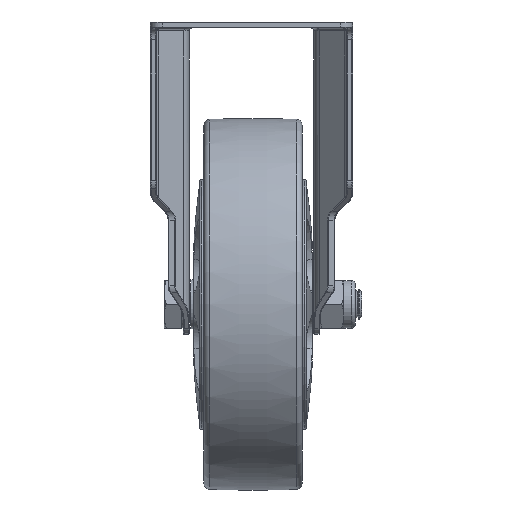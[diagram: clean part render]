
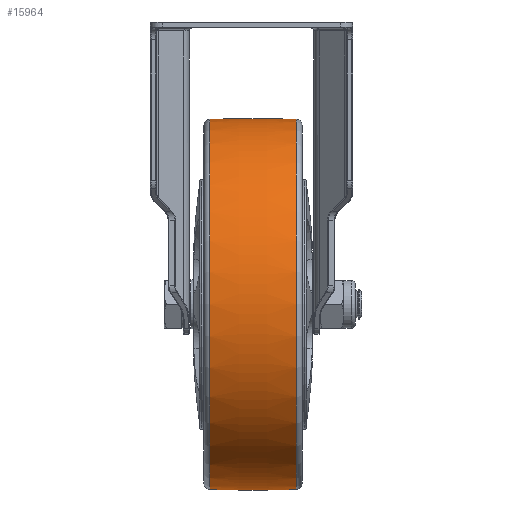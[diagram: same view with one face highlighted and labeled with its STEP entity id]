
A CAD part, left-side view. The second image highlights one B-rep face of the part: STEP entity #15964.
In plain terms, the highlighted toroidal (fillet/blend) face has major radius 391.4 mm and minor radius 453.9 mm.
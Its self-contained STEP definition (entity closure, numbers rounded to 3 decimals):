
#1253 = DIRECTION ( 'NONE',  ( -1., 0., 0. ) ) ;
#1724 = CARTESIAN_POINT ( 'NONE',  ( 0., -14.564, 62.266 ) ) ;
#2067 = CIRCLE ( 'NONE', #10735, 453.9 ) ;
#2447 = DIRECTION ( 'NONE',  ( 0., 0., -1. ) ) ;
#3099 = AXIS2_PLACEMENT_3D ( 'NONE', #16030, #9471, #2447 ) ;
#3715 = CARTESIAN_POINT ( 'NONE',  ( 0., 14.564, -62.266 ) ) ;
#5203 = AXIS2_PLACEMENT_3D ( 'NONE', #22360, #24716, #17956 ) ;
#5534 = EDGE_CURVE ( 'NONE', #19384, #15623, #10327, .T. ) ;
#6211 = VERTEX_POINT ( 'NONE', #21484 ) ;
#6489 = FACE_OUTER_BOUND ( 'NONE', #20455, .T. ) ;
#9471 = DIRECTION ( 'NONE',  ( 0., -1., 0. ) ) ;
#9512 = CIRCLE ( 'NONE', #10574, 62.266 ) ;
#9732 = ORIENTED_EDGE ( 'NONE', *, *, #12951, .F. ) ;
#10094 = ORIENTED_EDGE ( 'NONE', *, *, #5534, .F. ) ;
#10123 = DIRECTION ( 'NONE',  ( 0., 0., 1. ) ) ;
#10200 = DIRECTION ( 'NONE',  ( 0., 0., 1. ) ) ;
#10327 = CIRCLE ( 'NONE', #5203, 453.9 ) ;
#10574 = AXIS2_PLACEMENT_3D ( 'NONE', #11153, #24930, #15552 ) ;
#10735 = AXIS2_PLACEMENT_3D ( 'NONE', #19496, #1253, #10200 ) ;
#11153 = CARTESIAN_POINT ( 'NONE',  ( 0., 14.564, 0. ) ) ;
#12951 = EDGE_CURVE ( 'NONE', #15623, #6211, #21259, .T. ) ;
#15079 = ORIENTED_EDGE ( 'NONE', *, *, #25885, .T. ) ;
#15552 = DIRECTION ( 'NONE',  ( 0., 0., -1. ) ) ;
#15623 = VERTEX_POINT ( 'NONE', #1724 ) ;
#15964 = ADVANCED_FACE ( 'NONE', ( #6489 ), #23253, .T. ) ;
#16030 = CARTESIAN_POINT ( 'NONE',  ( 0., -14.564, 0. ) ) ;
#17216 = VERTEX_POINT ( 'NONE', #3715 ) ;
#17956 = DIRECTION ( 'NONE',  ( 0., 0., -1. ) ) ;
#19085 = CARTESIAN_POINT ( 'NONE',  ( 0., 14.564, 62.266 ) ) ;
#19384 = VERTEX_POINT ( 'NONE', #19085 ) ;
#19418 = DIRECTION ( 'NONE',  ( 0., -1., 0. ) ) ;
#19496 = CARTESIAN_POINT ( 'NONE',  ( 0., 0., 391.4 ) ) ;
#20455 = EDGE_LOOP ( 'NONE', ( #10094, #22859, #15079, #9732 ) ) ;
#20993 = CARTESIAN_POINT ( 'NONE',  ( 0., 0., 0. ) ) ;
#21259 = CIRCLE ( 'NONE', #3099, 62.266 ) ;
#21484 = CARTESIAN_POINT ( 'NONE',  ( 0., -14.564, -62.266 ) ) ;
#22360 = CARTESIAN_POINT ( 'NONE',  ( 0., 0., -391.4 ) ) ;
#22859 = ORIENTED_EDGE ( 'NONE', *, *, #26164, .T. ) ;
#23253 = TOROIDAL_SURFACE ( 'NONE', #26579, -391.4, 453.9 ) ;
#24716 = DIRECTION ( 'NONE',  ( 1., 0., 0. ) ) ;
#24930 = DIRECTION ( 'NONE',  ( 0., -1., 0. ) ) ;
#25885 = EDGE_CURVE ( 'NONE', #17216, #6211, #2067, .T. ) ;
#26164 = EDGE_CURVE ( 'NONE', #19384, #17216, #9512, .T. ) ;
#26579 = AXIS2_PLACEMENT_3D ( 'NONE', #20993, #19418, #10123 ) ;
